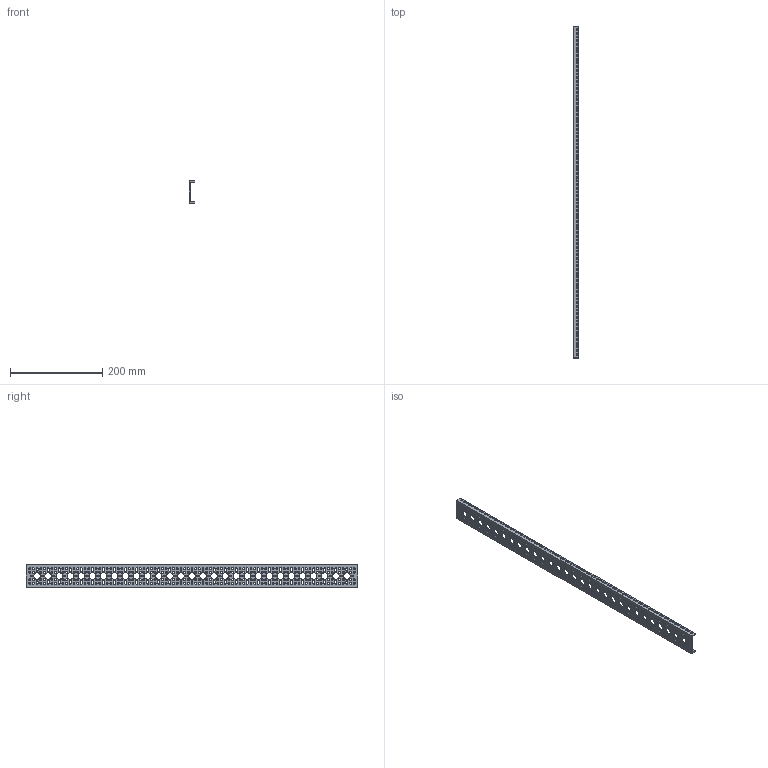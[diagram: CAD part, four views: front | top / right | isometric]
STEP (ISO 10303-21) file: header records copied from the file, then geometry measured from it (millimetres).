
FILE_DESCRIPTION (( 'STEP AP203' ), '1' );
FILE_NAME ('1107-0029-0720 rev1.STEP', '2017-05-12T20:28:20', ( '' ), ( '' ), 'SwSTEP 2.0', 'SolidWorks 2016', '' );
FILE_SCHEMA (( 'CONFIG_CONTROL_DESIGN' ));
Products named in the file (1): 1107-0029-0720 rev1
Bounding box: 12 x 720 x 48 mm (x, y, z)
Volume: 89589.7 mm3; surface area: 96668.6 mm2
Topology: 1 solids, 1 shells, 1645 faces, 4929 edges, 3286 vertices
Faces by surface type: cylinder 1219, plane 426
Entity records: 58898 total; most frequent: DIRECTION 10659, CARTESIAN_POINT 9861, ORIENTED_EDGE 9858, EDGE_CURVE 4929, AXIS2_PLACEMENT_3D 4084, VERTEX_POINT 3286, EDGE_LOOP 2715, VECTOR 2491
